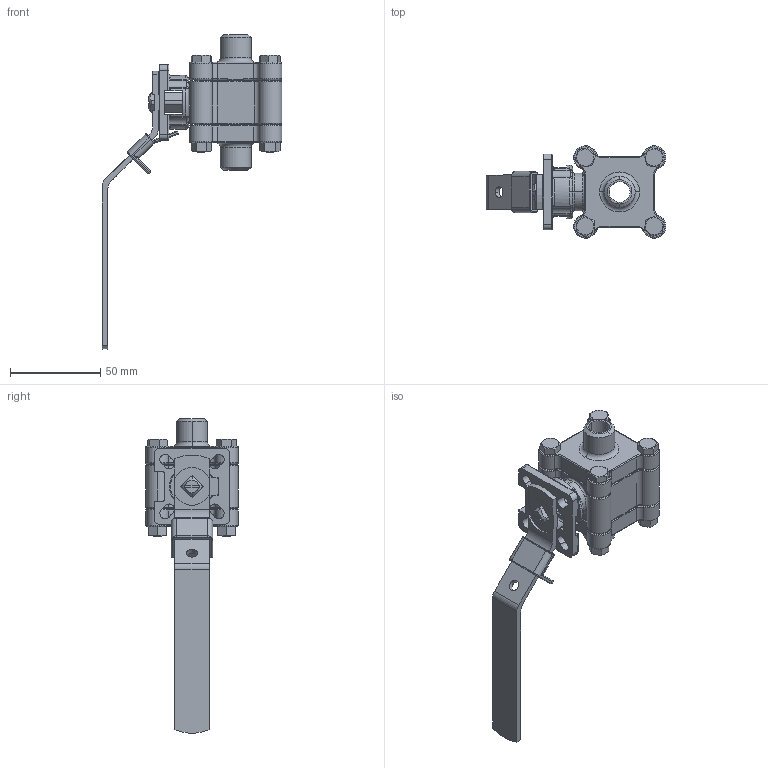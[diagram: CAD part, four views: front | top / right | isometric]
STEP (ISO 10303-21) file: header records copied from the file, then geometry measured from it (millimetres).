
FILE_DESCRIPTION (( 'STEP AP214' ), '1' );
FILE_NAME ('ZL9BK0A.STEP', '2010-09-03T06:20:51', ( 'Hsu22' ), ( 'Hollings' ), 'SwSTEP 2.0', 'SolidWorks 2008', '' );
FILE_SCHEMA (( 'AUTOMOTIVE_DESIGN' ));
Length unit declared in the file: millimetre
Products named in the file (7): SAL9T10TWCAEX0_預設; SDDL9T10CA8_預設; SBL9BK0ABCX0_預設; SHA0L9T10C0_預設; YSHM6-50_預設; YNM6_預設; ZL9BK0A
Assembly tree (13 placements, depth 2):
  ZL9BK0A
    YSHM6-50_預設  x4
    SHA0L9T10C0_預設
    YNM6_預設  x4
    SBL9BK0ABCX0_預設  x2
    SDDL9T10CA8_預設
    SAL9T10TWCAEX0_預設
Bounding box: 99.7 x 51.2 x 174.42 mm (x, y, z)
Volume: 91368.4 mm3; surface area: 51218.7 mm2
Topology: 13 solids, 13 shells, 767 faces, 1863 edges, 1095 vertices
Faces by surface type: cylinder 279, plane 186, torus 135, cone 92, bspline 59, sphere 16
Entity records: 18738 total; most frequent: CARTESIAN_POINT 5453, DIRECTION 2919, ORIENTED_EDGE 2678, EDGE_CURVE 1339, AXIS2_PLACEMENT_3D 1219, VERTEX_POINT 805, CIRCLE 697, EDGE_LOOP 608
